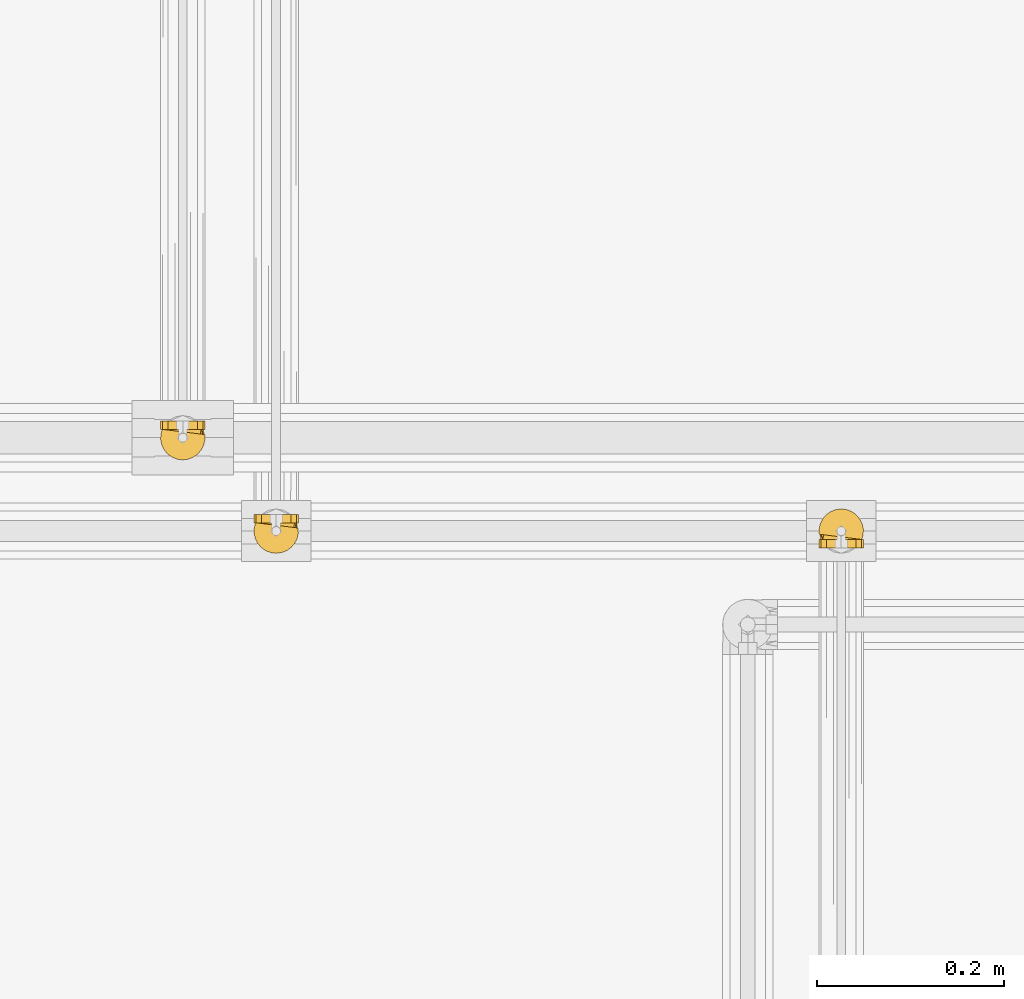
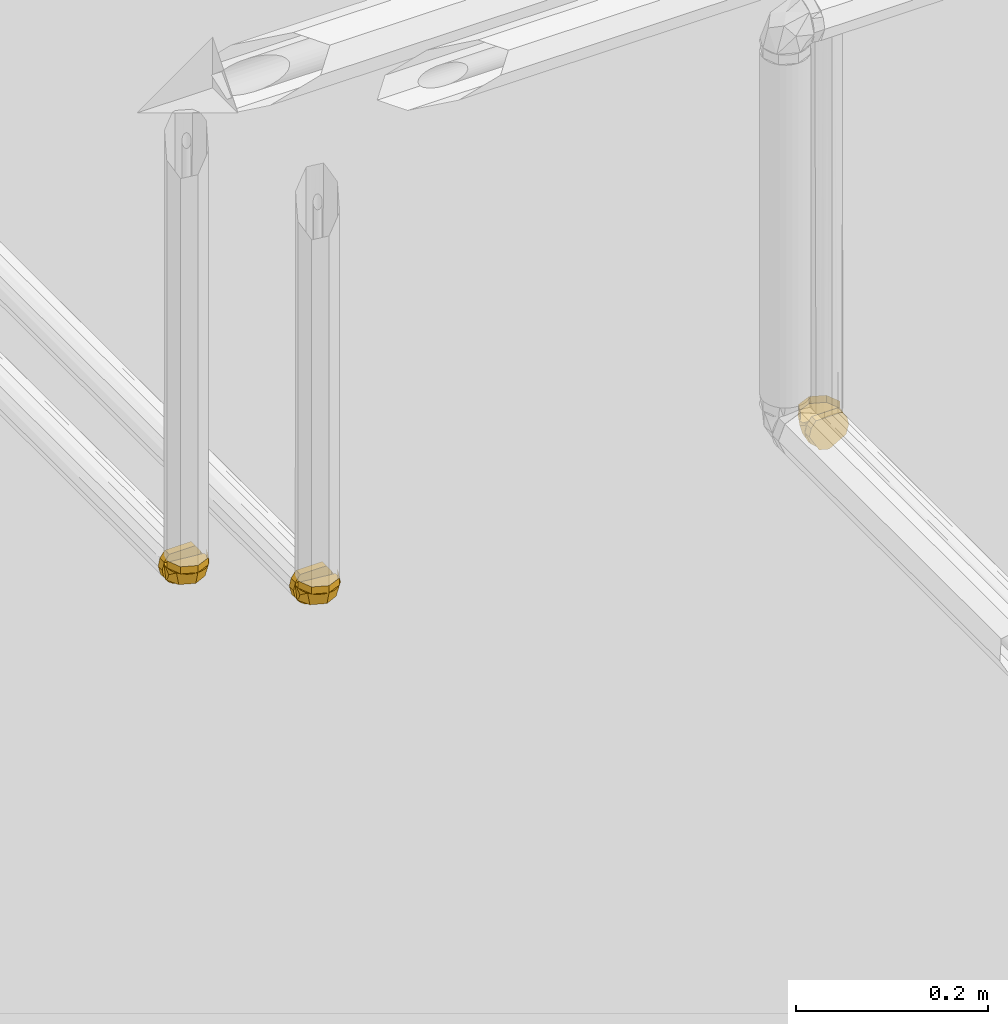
# One storey, part 309 of 652: 3 coverings.
"""IFC2X3 building model written with IfcOpenShell, lengths in millimetres."""

from ifc_helpers import new_model, entity, si_unit, converted_unit, direction, frame, origin, place, context, subcontext, project, spatial, face_set, surface_model, material, type_object, element, save


model = new_model("IFC2X3")

# Units and contexts
model_context = context("Model", 3, precision=0.01, world=frame((0.0, 0.0, 308426.39999999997)), true_north=direction((6.123233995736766e-17, 1.0)))
plan_context = context("Plan", 3, precision=0.01, world=frame((0.0, 0.0, 308426.39999999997)), true_north=direction((6.123233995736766e-17, 1.0)))
body_context = subcontext(model_context, "Body", "Model", "MODEL_VIEW")
ifc_project = project(units=[si_unit("LENGTHUNIT", "METRE", prefix="MILLI"), si_unit("AREAUNIT", "SQUARE_METRE"), si_unit("VOLUMEUNIT", "CUBIC_METRE"), converted_unit("PLANEANGLEUNIT", "DEGREE", entity("IfcPlaneAngleMeasure", 0.017453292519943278), si_unit("PLANEANGLEUNIT", "RADIAN"), dimensions=[0, 0, 0, 0, 0, 0, 0])], contexts=[model_context, plan_context])

# Site, building, storey
site_placement = place(None, origin())
site = spatial("IfcSite", under=ifc_project, at=site_placement, Name="Default", CompositionType="ELEMENT")
building_placement = place(site_placement, origin())
building = spatial("IfcBuilding", under=site, at=building_placement, CompositionType="ELEMENT")
storey_placement = place(building_placement, frame((0.0, 0.0, 1730.6999999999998)))
storey = spatial("IfcBuildingStorey", under=building, at=storey_placement, Name="EG_Produktion_FFB", CompositionType="ELEMENT", Elevation=1730.6999999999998)

# Coverings
ifc_material = material(Name="Dämmung - Armaflex-Schlauch")
covering_type = type_object("IfcCoveringType", Name="Rohrdämmung außen:Armaflex-Schlauch", PredefinedType="INSULATION")
covering_1_placement = place(storey_placement, frame((22563.32054968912, 59830.611079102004, 3274.642227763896)))
element("IfcCovering", 1, at=covering_1_placement, inside=storey, type_object=covering_type, material=ifc_material, Name="Rohrdämmung außen:Armaflex-Schlauch", ObjectType="Rohrdämmung außen:Armaflex-Schlauch", PredefinedType="INSULATION", context=body_context, shape_type="SurfaceModel", body=[
    surface_model("IfcFaceBasedSurfaceModel", [(47.37827577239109, 10.458420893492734, 34.28827223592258), (48.885203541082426, 16.054796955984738, 34.28827223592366), (48.99253247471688, 21.84951324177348, 34.288272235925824), (47.69387779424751, 27.497853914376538, 34.28827223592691), (45.06649381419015, 32.66381072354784, 34.28827223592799), (41.26667824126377, 37.04007144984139, 34.28827223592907), (36.520474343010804, 40.36630128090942, 34.28827223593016), (31.11022409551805, 42.44462959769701, 34.28827223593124), (25.357772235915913, 43.151420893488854, 34.28827223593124), (19.605320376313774, 42.44462959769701, 34.28827223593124), (14.19507012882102, 40.36630128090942, 34.28827223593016), (9.448866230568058, 37.04007144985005, 34.28827223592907), (5.649050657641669, 32.66381072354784, 34.28827223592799), (3.0216666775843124, 27.497853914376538, 34.28827223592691), (1.7230119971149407, 21.84951324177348, 34.288272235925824), (1.8303409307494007, 16.054796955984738, 34.28827223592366), (3.3372686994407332, 10.458420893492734, 34.28827223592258), (1.8303409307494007, 10.458420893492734, 28.691896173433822), (1.7230119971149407, 10.458420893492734, 22.897179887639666), (3.0216666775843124, 10.458420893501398, 17.248839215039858), (5.649050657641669, 10.458420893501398, 12.08288240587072), (9.448866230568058, 10.458420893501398, 7.70662167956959), (14.19507012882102, 10.458420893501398, 4.380391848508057), (19.605320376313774, 10.458420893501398, 2.3020635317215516), (25.357772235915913, 10.458420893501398, 1.5952722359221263), (31.11022409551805, 10.458420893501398, 2.3020635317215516), (36.520474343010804, 10.458420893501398, 4.380391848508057), (41.26667824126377, 10.458420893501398, 7.70662167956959), (45.06649381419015, 10.458420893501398, 12.082882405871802), (47.69387779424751, 10.458420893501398, 17.248839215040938), (48.99253247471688, 10.458420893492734, 22.897179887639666), (48.885203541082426, 10.458420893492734, 28.691896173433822), (47.71790245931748, 18.582304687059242, 19.381301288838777), (41.21597374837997, 30.59552490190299, 16.86691988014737), (46.23659752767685, 10.45721923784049, 23.314782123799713), (35.0977425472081, 37.96716796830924, 34.288530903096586), (25.3588021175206, 38.77177001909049, 17.9418542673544), (35.211689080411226, 10.45721923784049, 6.839043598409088), (25.3588021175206, 23.52618896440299, 9.140065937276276), (48.5759896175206, 22.52159912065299, 27.208149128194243), (46.2226448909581, 21.558867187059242, 34.288530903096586), (2.9997017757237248, 18.582304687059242, 19.381301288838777), (2.1392891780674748, 22.52159912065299, 27.208149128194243), (9.4993050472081, 30.59552490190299, 16.86691988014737), (15.617536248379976, 37.96716796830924, 34.288530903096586), (4.478681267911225, 10.45721923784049, 23.314782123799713), (15.617536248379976, 10.45721923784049, 6.778000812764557), (25.3588021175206, 24.61449462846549, 9.768515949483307), (4.492633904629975, 21.558867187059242, 34.288530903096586), (49.12014244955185, 19.38690673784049, 43.307747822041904), (49.12014244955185, 19.38690673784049, 34.288530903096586), (42.16010216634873, 36.19053222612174, 34.288530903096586), (42.16010216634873, 36.19053222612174, 43.307747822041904), (25.3588021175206, 43.15289794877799, 34.288530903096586), (25.3588021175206, 43.15289794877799, 43.307747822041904), (8.55517662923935, 36.19053222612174, 34.288530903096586), (8.55517662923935, 36.19053222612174, 43.307747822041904), (1.5951363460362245, 19.38690673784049, 34.288530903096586), (1.5951363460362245, 19.38690673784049, 43.307747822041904), (4.565584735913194, 1.4386708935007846, 20.213040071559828), (7.53589723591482, 1.4386708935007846, 15.068307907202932), (10.506209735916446, 1.4386708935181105, 9.923575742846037), (13.47652223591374, 1.4386708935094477, 4.778843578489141), (19.417147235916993, 1.4386708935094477, 3.187057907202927), (25.357772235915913, 1.4386708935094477, 1.595272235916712), (30.50250440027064, 1.4386708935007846, 4.565584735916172), (35.6472365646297, 1.4386708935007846, 7.535897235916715), (40.79196872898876, 1.4386708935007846, 10.506209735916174), (45.93670089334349, 1.4386708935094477, 13.476522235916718), (47.52848656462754, 1.4386708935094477, 19.417147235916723), (49.12027223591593, 1.4386708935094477, 25.357772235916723), (48.07242355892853, 1.4386708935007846, 30.236452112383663), (47.024574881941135, 1.4386708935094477, 35.11513198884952), (44.06585567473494, 1.4386708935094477, 39.13327644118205), (41.10713646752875, 1.4386708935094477, 43.151420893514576), (9.608408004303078, 1.4386708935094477, 43.151420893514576), (6.649688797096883, 1.4386708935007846, 39.13327644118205), (3.690969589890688, 1.4386708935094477, 35.11513198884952), (2.6431209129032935, 1.4386708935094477, 30.236452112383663), (1.5952722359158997, 1.4386708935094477, 25.357772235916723), (8.55514734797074, 10.458420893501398, 8.555147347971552), (6.815178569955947, 10.458420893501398, 12.755803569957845), (5.075209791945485, 10.458420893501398, 16.956459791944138), (3.3352410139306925, 10.458420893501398, 21.157116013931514), (1.5952722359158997, 10.458420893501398, 25.357772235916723), (2.6431209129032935, 10.458420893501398, 30.236452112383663), (3.690969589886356, 10.458420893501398, 35.1151319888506), (6.729669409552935, 10.458420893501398, 39.241895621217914), (9.608408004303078, 10.458420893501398, 43.151420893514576), (41.10713646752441, 10.458420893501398, 43.151420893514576), (44.06585567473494, 10.458420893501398, 39.13327644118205), (47.024574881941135, 10.458420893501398, 35.1151319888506), (48.100749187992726, 10.458420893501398, 30.104570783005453), (49.12027223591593, 10.458420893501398, 25.357772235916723), (47.38030345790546, 10.458420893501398, 21.15711601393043), (45.64033467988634, 10.458420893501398, 16.956459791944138), (43.90036590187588, 10.458420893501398, 12.755803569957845), (42.16039712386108, 10.458420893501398, 8.555147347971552), (37.95974090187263, 10.458420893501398, 6.815178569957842), (33.759084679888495, 10.458420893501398, 5.075209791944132), (29.55842845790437, 10.458420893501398, 3.335241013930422), (25.357772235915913, 10.458420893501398, 1.595272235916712), (21.157116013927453, 10.458420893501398, 3.335241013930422), (16.956459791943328, 10.458420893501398, 5.075209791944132), (12.755803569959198, 10.458420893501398, 6.815178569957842)], [face_set([[[0, 1, 2, 3, 4, 5, 6, 7, 8, 9, 10, 11, 12, 13, 14, 15]], [[16, 17, 18, 19, 20, 21, 22, 23, 24, 25, 26, 27, 28, 29, 30, 31]], [[32, 28, 33]], [[32, 34, 28]], [[33, 35, 4]], [[35, 33, 36]], [[36, 8, 35]], [[33, 37, 38]], [[39, 4, 40]], [[32, 33, 39]], [[34, 32, 0]], [[4, 39, 33]], [[38, 36, 33]], [[0, 32, 39]], [[33, 28, 37]], [[37, 24, 38]], [[0, 39, 40]], [[41, 16, 42]], [[43, 44, 36]], [[20, 45, 41]], [[46, 43, 47]], [[44, 8, 36]], [[12, 43, 42]], [[44, 43, 12]], [[42, 16, 48]], [[20, 43, 46]], [[16, 41, 45]], [[43, 41, 42]], [[43, 36, 47]], [[47, 24, 46]], [[20, 41, 43]], [[48, 12, 42]]]), face_set([[[49, 50, 51, 52]], [[53, 54, 52, 51]], [[54, 53, 55, 56]], [[57, 58, 56, 55]]]), face_set([[[59, 60, 61, 62, 63, 64, 65, 66, 67, 68, 69, 70, 71, 72, 73, 74, 75, 76, 77, 78, 79]], [[80, 81, 82, 83, 84, 85, 86, 87, 88, 89, 90, 91, 92, 93, 94, 95, 96, 97, 98, 99, 100, 101, 102, 103, 104]], [[75, 74, 89, 88]], [[71, 70, 93, 92, 91, 72]], [[73, 72, 91, 90, 89, 74]], [[96, 67, 97]], [[64, 100, 65]], [[100, 99, 65]], [[69, 95, 94]], [[94, 93, 70]], [[67, 96, 68]], [[66, 99, 98]], [[64, 101, 100]], [[99, 66, 65]], [[70, 69, 94]], [[98, 97, 67]], [[96, 95, 68]], [[69, 68, 95]], [[66, 98, 67]], [[104, 61, 80]], [[79, 83, 59]], [[83, 82, 59]], [[63, 103, 102]], [[102, 101, 64]], [[61, 104, 62]], [[60, 82, 81]], [[79, 84, 83]], [[82, 60, 59]], [[64, 63, 102]], [[81, 80, 61]], [[104, 103, 62]], [[63, 62, 103]], [[60, 81, 61]], [[76, 75, 88, 87, 86, 77]], [[78, 77, 86, 85, 84, 79]]])]),
])
covering_2_placement = place(storey_placement, frame((21858.505862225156, 59924.642227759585, 3319.3889208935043)))
element("IfcCovering", 2, at=covering_2_placement, inside=storey, type_object=covering_type, material=ifc_material, Name="Rohrdämmung außen:Armaflex-Schlauch", ObjectType="Rohrdämmung außen:Armaflex-Schlauch", PredefinedType="INSULATION", context=body_context, shape_type="SurfaceModel", body=[
    surface_model("IfcFaceBasedSurfaceModel", [(3.3372686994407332, 34.28827223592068, -10.458420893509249), (48.885203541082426, 28.691896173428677, -10.458420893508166), (48.99253247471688, 22.897179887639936, -10.458420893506), (47.69387779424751, 17.248839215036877, -10.458420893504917), (45.06649381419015, 12.082882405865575, -10.458420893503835), (41.26667824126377, 7.706621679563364, -10.458420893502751), (36.520474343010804, 4.380391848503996, -10.45842089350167), (31.11022409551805, 2.3020635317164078, -10.458420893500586), (25.357772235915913, 1.5952722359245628, -10.458420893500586), (19.605320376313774, 2.3020635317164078, -10.458420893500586), (14.19507012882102, 4.380391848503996, -10.45842089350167), (9.448866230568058, 7.706621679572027, -10.458420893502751), (5.649050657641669, 12.082882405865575, -10.458420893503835), (3.0216666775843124, 17.248839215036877, -10.458420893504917), (1.7230119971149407, 22.897179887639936, -10.458420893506), (1.8303409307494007, 28.691896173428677, -10.458420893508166), (47.37827577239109, 34.28827223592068, -10.458420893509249), (1.8303409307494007, 34.28827223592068, -16.054796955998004), (1.7230119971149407, 34.28827223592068, -21.84951324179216), (3.0216666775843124, 34.28827223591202, -27.497853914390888), (5.649050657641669, 34.28827223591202, -32.663810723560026), (9.448866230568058, 34.28827223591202, -37.04007144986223), (14.19507012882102, 34.28827223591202, -40.36630128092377), (19.605320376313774, 34.28827223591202, -42.444629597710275), (25.357772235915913, 34.28827223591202, -43.1514208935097), (31.11022409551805, 34.28827223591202, -42.444629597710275), (36.520474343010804, 34.28827223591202, -40.36630128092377), (41.26667824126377, 34.28827223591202, -37.04007144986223), (45.06649381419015, 34.28827223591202, -32.663810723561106), (47.69387779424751, 34.28827223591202, -27.497853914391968), (48.99253247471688, 34.28827223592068, -21.84951324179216), (48.885203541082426, 34.28827223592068, -16.054796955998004), (2.999270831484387, 26.16820925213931, -25.365391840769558), (9.498874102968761, 14.150338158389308, -27.879773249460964), (4.480575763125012, 34.28864382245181, -21.43191100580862), (15.617105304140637, 6.778695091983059, -10.458162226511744), (25.358371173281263, 5.974093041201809, -26.80483886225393), (15.503158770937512, 34.28864382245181, -37.90764953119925), (25.358371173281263, 21.21967409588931, -35.606627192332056), (2.138858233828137, 22.22426393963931, -17.53854400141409), (4.492202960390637, 23.18699587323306, -10.458162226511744), (47.71747151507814, 26.16820925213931, -25.365391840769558), (48.575558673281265, 22.22426393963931, -17.53854400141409), (41.21554280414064, 14.150338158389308, -27.879773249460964), (35.097311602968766, 6.778695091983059, -10.458162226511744), (46.236166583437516, 34.28864382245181, -21.43191100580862), (35.097311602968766, 34.28864382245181, -37.96869231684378), (25.358371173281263, 20.13136843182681, -34.97817718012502), (46.22221394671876, 23.18699587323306, -10.458162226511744), (1.5947054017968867, 25.35895632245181, -1.4389453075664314), (1.5947054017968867, 25.35895632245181, -10.458162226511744), (8.554745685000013, 8.55533083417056, -10.458162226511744), (8.554745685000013, 8.55533083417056, -1.4389453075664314), (25.358371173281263, 1.5929651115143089, -10.458162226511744), (25.358371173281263, 1.5929651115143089, -1.4389453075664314), (42.15967122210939, 8.55533083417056, -10.458162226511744), (42.15967122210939, 8.55533083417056, -1.4389453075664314), (49.119711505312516, 25.35895632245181, -10.458162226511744), (49.119711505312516, 25.35895632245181, -1.4389453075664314), (46.14995973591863, 43.30802223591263, -24.533653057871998), (43.179647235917, 43.30802223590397, -29.678385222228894), (40.20933473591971, 43.30802223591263, -34.823117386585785), (37.239022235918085, 43.30802223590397, -39.96784955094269), (31.298397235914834, 43.30802223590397, -41.5596352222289), (25.357772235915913, 43.30802223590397, -43.151420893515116), (20.21304007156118, 43.30802223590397, -40.18110839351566), (15.06830790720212, 43.30802223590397, -37.21079589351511), (9.92357574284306, 43.30802223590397, -34.240483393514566), (4.778843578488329, 43.30802223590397, -31.270170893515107), (3.1870579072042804, 43.30802223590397, -25.329545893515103), (1.5952722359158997, 43.30802223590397, -19.388920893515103), (2.6431209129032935, 43.30802223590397, -14.510241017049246), (3.690969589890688, 43.30802223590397, -9.631561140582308), (6.649688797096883, 43.30802223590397, -5.613416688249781), (9.608408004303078, 43.30802223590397, -1.5952722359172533), (41.10713646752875, 43.30802223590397, -1.5952722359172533), (44.06585567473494, 43.30802223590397, -5.613416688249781), (47.024574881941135, 43.30802223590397, -9.631561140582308), (48.07242355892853, 43.30802223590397, -14.510241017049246), (49.12027223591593, 43.30802223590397, -19.388920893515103), (42.16039712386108, 34.28827223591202, -36.19154578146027), (43.90036590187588, 34.28827223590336, -31.99088955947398), (45.64033467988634, 34.28827223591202, -27.790233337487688), (47.38030345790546, 34.28827223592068, -23.589577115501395), (49.12027223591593, 34.28827223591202, -19.388920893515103), (48.07242355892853, 34.28827223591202, -14.510241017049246), (47.02457488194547, 34.28827223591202, -9.631561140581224), (43.985875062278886, 34.28827223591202, -5.504797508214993), (41.10713646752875, 34.28827223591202, -1.5952722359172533), (9.60840800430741, 34.28827223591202, -1.5952722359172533), (6.649688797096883, 34.28827223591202, -5.613416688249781), (3.690969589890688, 34.28827223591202, -9.631561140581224), (2.6147952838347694, 34.28827223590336, -14.642122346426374), (1.5952722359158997, 34.28827223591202, -19.388920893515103), (3.3352410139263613, 34.28827223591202, -23.589577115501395), (5.075209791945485, 34.28827223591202, -27.790233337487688), (6.815178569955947, 34.28827223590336, -31.99088955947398), (8.55514734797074, 34.28827223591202, -36.19154578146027), (12.755803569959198, 34.28827223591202, -37.93151455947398), (16.956459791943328, 34.28827223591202, -39.67148333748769), (21.157116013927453, 34.28827223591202, -41.411452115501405), (25.357772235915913, 34.28827223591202, -43.151420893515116), (29.55842845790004, 34.28827223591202, -41.411452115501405), (33.759084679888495, 34.28827223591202, -39.67148333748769), (37.95974090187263, 34.28827223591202, -37.93151455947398)], [face_set([[[0, 1, 2, 3, 4, 5, 6, 7, 8, 9, 10, 11, 12, 13, 14, 15]], [[16, 17, 18, 19, 20, 21, 22, 23, 24, 25, 26, 27, 28, 29, 30, 31]], [[32, 20, 33]], [[32, 34, 20]], [[33, 35, 12]], [[35, 33, 36]], [[36, 8, 35]], [[33, 37, 38]], [[39, 12, 40]], [[32, 33, 39]], [[34, 32, 0]], [[12, 39, 33]], [[38, 36, 33]], [[0, 32, 39]], [[33, 20, 37]], [[37, 24, 38]], [[0, 39, 40]], [[41, 16, 42]], [[43, 44, 36]], [[28, 45, 41]], [[46, 43, 47]], [[44, 8, 36]], [[4, 43, 42]], [[44, 43, 4]], [[42, 16, 48]], [[28, 43, 46]], [[16, 41, 45]], [[43, 41, 42]], [[43, 36, 47]], [[47, 24, 46]], [[28, 41, 43]], [[48, 4, 42]]]), face_set([[[49, 50, 51, 52]], [[53, 54, 52, 51]], [[54, 53, 55, 56]], [[57, 58, 56, 55]]]), face_set([[[59, 60, 61, 62, 63, 64, 65, 66, 67, 68, 69, 70, 71, 72, 73, 74, 75, 76, 77, 78, 79]], [[80, 81, 82, 83, 84, 85, 86, 87, 88, 89, 90, 91, 92, 93, 94, 95, 96, 97, 98, 99, 100, 101, 102, 103, 104]], [[75, 74, 89, 88]], [[71, 70, 93, 92, 91, 72]], [[73, 72, 91, 90, 89, 74]], [[96, 67, 97]], [[64, 100, 65]], [[100, 99, 65]], [[69, 95, 94]], [[94, 93, 70]], [[67, 96, 68]], [[66, 99, 98]], [[64, 101, 100]], [[99, 66, 65]], [[70, 69, 94]], [[98, 97, 67]], [[96, 95, 68]], [[69, 68, 95]], [[66, 98, 67]], [[104, 61, 80]], [[79, 83, 59]], [[83, 82, 59]], [[63, 103, 102]], [[102, 101, 64]], [[61, 104, 62]], [[60, 82, 81]], [[79, 84, 83]], [[82, 60, 59]], [[64, 63, 102]], [[81, 80, 61]], [[104, 103, 62]], [[63, 62, 103]], [[60, 81, 61]], [[76, 75, 88, 87, 86, 77]], [[78, 77, 86, 85, 84, 79]]])]),
])
covering_3_placement = place(storey_placement, frame((21958.505862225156, 59824.64222775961, 3319.3889208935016)))
element("IfcCovering", 3, at=covering_3_placement, inside=storey, type_object=covering_type, material=ifc_material, Name="Rohrdämmung außen:Armaflex-Schlauch", ObjectType="Rohrdämmung außen:Armaflex-Schlauch", PredefinedType="INSULATION", context=body_context, shape_type="SurfaceModel", body=[
    surface_model("IfcFaceBasedSurfaceModel", [(3.3372686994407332, 34.28827223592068, -10.458420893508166), (48.885203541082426, 28.691896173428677, -10.458420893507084), (48.99253247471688, 22.897179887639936, -10.458420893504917), (47.69387779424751, 17.248839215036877, -10.458420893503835), (45.06649381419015, 12.082882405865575, -10.458420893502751), (41.26667824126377, 7.706621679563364, -10.45842089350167), (36.520474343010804, 4.380391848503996, -10.458420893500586), (31.11022409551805, 2.3020635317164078, -10.458420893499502), (25.357772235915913, 1.5952722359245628, -10.458420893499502), (19.605320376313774, 2.3020635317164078, -10.458420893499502), (14.19507012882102, 4.380391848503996, -10.458420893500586), (9.448866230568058, 7.706621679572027, -10.45842089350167), (5.649050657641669, 12.082882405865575, -10.458420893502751), (3.0216666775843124, 17.248839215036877, -10.458420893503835), (1.7230119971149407, 22.897179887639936, -10.458420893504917), (1.8303409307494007, 28.691896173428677, -10.458420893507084), (47.37827577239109, 34.28827223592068, -10.458420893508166), (1.8303409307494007, 34.28827223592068, -16.05479695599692), (1.7230119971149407, 34.28827223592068, -21.849513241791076), (3.0216666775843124, 34.28827223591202, -27.497853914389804), (5.649050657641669, 34.28827223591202, -32.66381072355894), (9.448866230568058, 34.28827223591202, -37.04007144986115), (14.19507012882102, 34.28827223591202, -40.366301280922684), (19.605320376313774, 34.28827223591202, -42.444629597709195), (25.357772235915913, 34.28827223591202, -43.151420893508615), (31.11022409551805, 34.28827223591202, -42.444629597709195), (36.520474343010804, 34.28827223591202, -40.366301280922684), (41.26667824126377, 34.28827223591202, -37.04007144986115), (45.06649381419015, 34.28827223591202, -32.663810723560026), (47.69387779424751, 34.28827223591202, -27.497853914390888), (48.99253247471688, 34.28827223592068, -21.849513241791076), (48.885203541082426, 34.28827223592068, -16.05479695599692), (2.9978181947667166, 26.16501100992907, -25.36539184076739), (9.499746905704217, 14.151790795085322, -27.879773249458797), (4.479123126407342, 34.290096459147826, -21.431911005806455), (15.617978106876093, 6.780147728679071, -10.458162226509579), (25.356918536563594, 5.975545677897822, -26.804838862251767), (15.504031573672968, 34.290096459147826, -37.90764953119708), (25.356918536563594, 21.221126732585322, -35.60662719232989), (2.139731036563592, 22.221065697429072, -17.53854400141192), (4.493075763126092, 23.183797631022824, -10.458162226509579), (47.716018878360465, 26.16501100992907, -25.36539184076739), (48.576431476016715, 22.221065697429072, -17.53854400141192), (41.21641560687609, 14.151790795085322, -27.879773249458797), (35.09818440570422, 6.780147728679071, -10.458162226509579), (46.23471394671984, 34.290096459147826, -21.431911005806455), (35.09818440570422, 34.290096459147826, -37.96869231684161), (25.356918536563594, 20.132821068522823, -34.97817718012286), (46.22308674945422, 23.183797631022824, -10.458162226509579), (1.5955782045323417, 25.35575808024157, -1.4389453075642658), (1.5955782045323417, 25.35575808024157, -10.458162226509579), (8.555618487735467, 8.556783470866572, -10.458162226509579), (8.555618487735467, 8.556783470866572, -1.4389453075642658), (25.356918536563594, 1.5944177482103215, -10.458162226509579), (25.356918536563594, 1.5944177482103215, -1.4389453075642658), (42.160544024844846, 8.556783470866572, -10.458162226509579), (42.160544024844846, 8.556783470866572, -1.4389453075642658), (49.12058430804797, 25.35575808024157, -10.458162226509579), (49.12058430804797, 25.35575808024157, -1.4389453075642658), (46.14995973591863, 43.30802223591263, -24.533653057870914), (43.179647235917, 43.30802223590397, -29.67838522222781), (40.20933473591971, 43.30802223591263, -34.823117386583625), (37.239022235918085, 43.30802223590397, -39.9678495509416), (31.298397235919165, 43.30802223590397, -41.55963522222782), (25.357772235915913, 43.30802223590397, -43.15142089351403), (20.21304007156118, 43.30802223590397, -40.18110839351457), (15.06830790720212, 43.30802223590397, -37.210795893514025), (9.92357574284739, 43.30802223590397, -34.240483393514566), (4.778843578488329, 43.30802223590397, -31.270170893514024), (3.1870579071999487, 43.30802223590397, -25.329545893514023), (1.5952722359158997, 43.30802223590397, -19.38892089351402), (2.6431209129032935, 43.30802223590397, -14.51024101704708), (3.690969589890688, 43.30802223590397, -9.631561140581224), (6.649688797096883, 43.30802223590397, -5.613416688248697), (9.608408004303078, 43.30802223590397, -1.5952722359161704), (41.10713646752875, 43.30802223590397, -1.5952722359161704), (44.06585567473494, 43.30802223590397, -5.613416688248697), (47.024574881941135, 43.30802223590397, -9.631561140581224), (48.07242355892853, 43.30802223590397, -14.51024101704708), (49.12027223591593, 43.30802223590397, -19.38892089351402), (42.16039712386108, 34.28827223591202, -36.19154578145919), (43.90036590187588, 34.28827223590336, -31.990889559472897), (45.64033467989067, 34.28827223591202, -27.790233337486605), (47.38030345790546, 34.28827223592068, -23.589577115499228), (49.12027223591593, 34.28827223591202, -19.38892089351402), (48.07242355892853, 34.28827223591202, -14.51024101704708), (47.02457488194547, 34.28827223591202, -9.631561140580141), (43.985875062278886, 34.28827223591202, -5.50479750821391), (41.10713646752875, 34.28827223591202, -1.5952722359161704), (9.60840800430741, 34.28827223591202, -1.5952722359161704), (6.649688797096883, 34.28827223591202, -5.613416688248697), (3.690969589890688, 34.28827223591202, -9.631561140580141), (2.6147952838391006, 34.28827223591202, -14.642122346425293), (1.5952722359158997, 34.28827223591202, -19.38892089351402), (3.3352410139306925, 34.28827223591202, -23.589577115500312), (5.0752097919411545, 34.28827223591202, -27.790233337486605), (6.815178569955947, 34.28827223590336, -31.990889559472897), (8.55514734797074, 34.28827223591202, -36.19154578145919), (12.755803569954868, 34.28827223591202, -37.9315145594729), (16.956459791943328, 34.28827223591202, -39.67148333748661), (21.157116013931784, 34.28827223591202, -41.411452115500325), (25.357772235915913, 34.28827223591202, -43.15142089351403), (29.55842845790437, 34.28827223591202, -41.411452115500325), (33.759084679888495, 34.28827223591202, -39.67148333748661), (37.959740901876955, 34.28827223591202, -37.9315145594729)], [face_set([[[0, 1, 2, 3, 4, 5, 6, 7, 8, 9, 10, 11, 12, 13, 14, 15]], [[16, 17, 18, 19, 20, 21, 22, 23, 24, 25, 26, 27, 28, 29, 30, 31]], [[32, 20, 33]], [[32, 34, 20]], [[33, 35, 12]], [[35, 33, 36]], [[36, 8, 35]], [[33, 37, 38]], [[39, 12, 40]], [[32, 33, 39]], [[34, 32, 0]], [[12, 39, 33]], [[38, 36, 33]], [[0, 32, 39]], [[33, 20, 37]], [[37, 24, 38]], [[0, 39, 40]], [[41, 16, 42]], [[43, 44, 36]], [[28, 45, 41]], [[46, 43, 47]], [[44, 8, 36]], [[4, 43, 42]], [[44, 43, 4]], [[42, 16, 48]], [[28, 43, 46]], [[16, 41, 45]], [[43, 41, 42]], [[43, 36, 47]], [[47, 24, 46]], [[28, 41, 43]], [[48, 4, 42]]]), face_set([[[49, 50, 51, 52]], [[53, 54, 52, 51]], [[54, 53, 55, 56]], [[57, 58, 56, 55]]]), face_set([[[59, 60, 61, 62, 63, 64, 65, 66, 67, 68, 69, 70, 71, 72, 73, 74, 75, 76, 77, 78, 79]], [[80, 81, 82, 83, 84, 85, 86, 87, 88, 89, 90, 91, 92, 93, 94, 95, 96, 97, 98, 99, 100, 101, 102, 103, 104]], [[75, 74, 89, 88]], [[71, 70, 93, 92, 91, 72]], [[73, 72, 91, 90, 89, 74]], [[96, 67, 97]], [[64, 100, 65]], [[100, 99, 65]], [[69, 95, 94]], [[94, 93, 70]], [[67, 96, 68]], [[66, 99, 98]], [[64, 101, 100]], [[99, 66, 65]], [[70, 69, 94]], [[98, 97, 67]], [[96, 95, 68]], [[69, 68, 95]], [[66, 98, 67]], [[104, 61, 80]], [[79, 83, 59]], [[83, 82, 59]], [[63, 103, 102]], [[102, 101, 64]], [[61, 104, 62]], [[60, 82, 81]], [[79, 84, 83]], [[82, 60, 59]], [[64, 63, 102]], [[81, 80, 61]], [[104, 103, 62]], [[63, 62, 103]], [[60, 81, 61]], [[76, 75, 88, 87, 86, 77]], [[78, 77, 86, 85, 84, 79]]])]),
])

save(model, "model.ifc")
